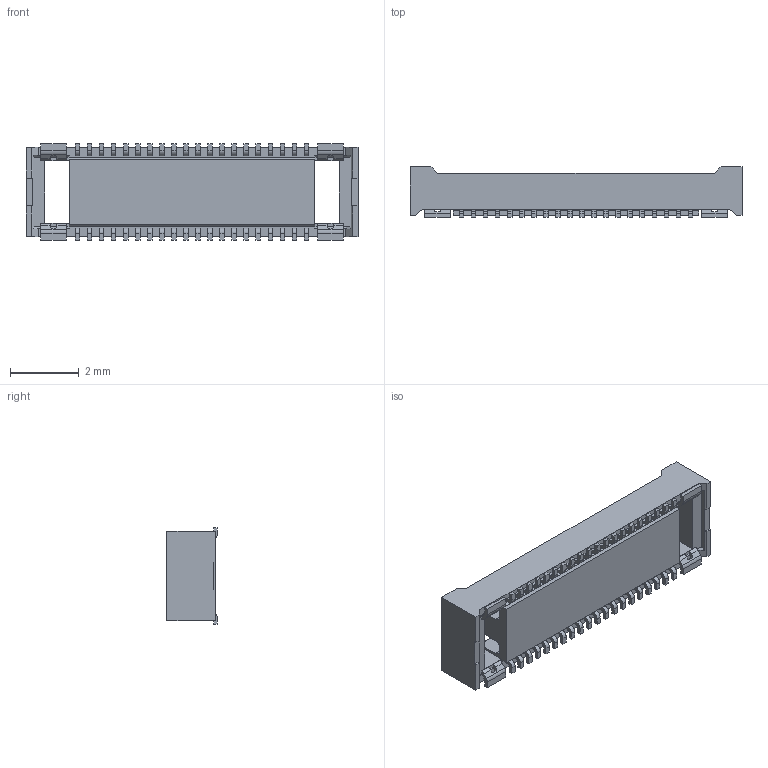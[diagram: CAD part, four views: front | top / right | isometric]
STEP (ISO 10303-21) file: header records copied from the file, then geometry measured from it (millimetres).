
FILE_DESCRIPTION (( 'STEP AP203' ), '1' );
FILE_NAME ('20843-040E-01-RECE ASS''Y 3Dmodel STEP.STEP', '2018-04-13T02:12:03', ( '' ), ( '' ), 'SwSTEP 2.0', 'SolidWorks 2017', '' );
FILE_SCHEMA (( 'CONFIG_CONTROL_DESIGN' ));
Length unit declared in the file: millimetre
Products named in the file (1): 20843-040E-01-RECE ASS''Y 3Dmodel STEP
Bounding box: 9.65 x 1.46 x 2.8 mm (x, y, z)
Volume: 20.2 mm3; surface area: 119.4 mm2
Topology: 1 solids, 1 shells, 525 faces, 1470 edges, 976 vertices
Faces by surface type: plane 407, cylinder 118
Entity records: 16841 total; most frequent: CARTESIAN_POINT 2984, ORIENTED_EDGE 2940, DIRECTION 2750, EDGE_CURVE 1470, VECTOR 1234, LINE 1234, VERTEX_POINT 976, AXIS2_PLACEMENT_3D 758
